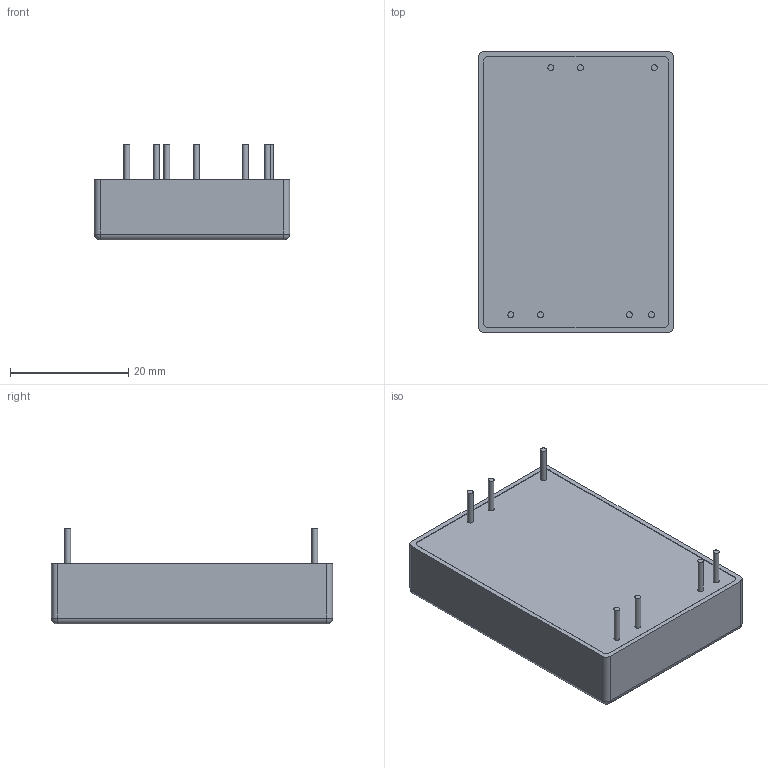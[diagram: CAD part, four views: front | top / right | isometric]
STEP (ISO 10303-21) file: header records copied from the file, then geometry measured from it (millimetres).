
FILE_DESCRIPTION(('STEP AP214'), '1');
FILE_NAME('3 ﾌﾄﾌ20-ﾏ', '', ('UNSPECIFIED'), ('UNSPECIFIED'), 'C3D Converter', 'C3D Toolkit', '');
FILE_SCHEMA(('AUTOMOTIVE_DESIGN { 1 0 10303 214 3 1 1}'));
Length unit declared in the file: millimetre
Bounding box: 33 x 47.5 x 16.2 mm (x, y, z)
Volume: 15835.4 mm3; surface area: 4838.6 mm2
Topology: 1 solids, 1 shells, 41 faces, 85 edges, 50 vertices
Faces by surface type: cylinder 19, plane 18, sphere 4
Full cylindrical faces by diameter (mm): 1 x7
Entity records: 1057 total; most frequent: DIRECTION 196, CARTESIAN_POINT 166, ORIENTED_EDGE 148, AXIS2_PLACEMENT_3D 80, EDGE_CURVE 74, EDGE_LOOP 56, VERTEX_POINT 50, FACE_BOUND 42
